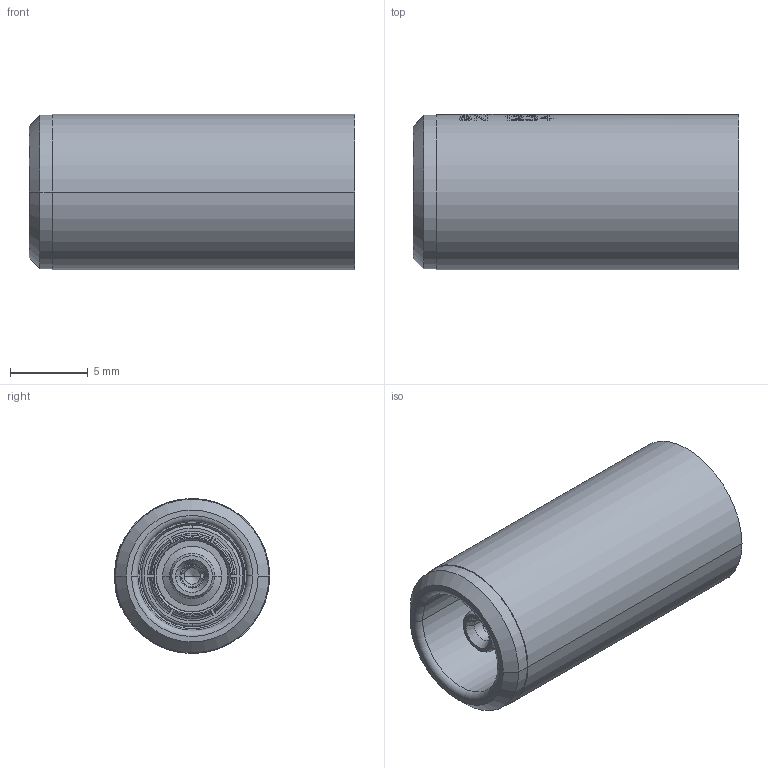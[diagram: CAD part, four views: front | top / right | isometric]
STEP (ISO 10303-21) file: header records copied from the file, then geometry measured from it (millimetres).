
FILE_DESCRIPTION((''),'2;1');
FILE_NAME('CS1','2009-08-25T',('11000065'),(''),'PRO/ENGINEER BY PARAMETRIC TECHNOLOGY CORPORATION, 2008490','PRO/ENGINEER BY PARAMETRIC TECHNOLOGY CORPORATION, 2008490','');
FILE_SCHEMA(('AUTOMOTIVE_DESIGN { 1 2 10303 214 0 1 1 1 }'));
Length unit declared in the file: millimetre
Products named in the file (1): CS1
Bounding box: 21 x 10.02 x 10 mm (x, y, z)
Volume: 1312.6 mm3; surface area: 1380.2 mm2
Topology: 1 solids, 5 shells, 737 faces, 2089 edges, 1395 vertices
Faces by surface type: plane 610, cylinder 73, cone 30, torus 24
Entity records: 31912 total; most frequent: CARTESIAN_POINT 6474, ORIENTED_EDGE 4174, DIRECTION 3083, PRESENTATION_STYLE_ASSIGNMENT 2195, STYLED_ITEM 2091, CURVE_STYLE 2087, EDGE_CURVE 2087, VERTEX_POINT 1395
